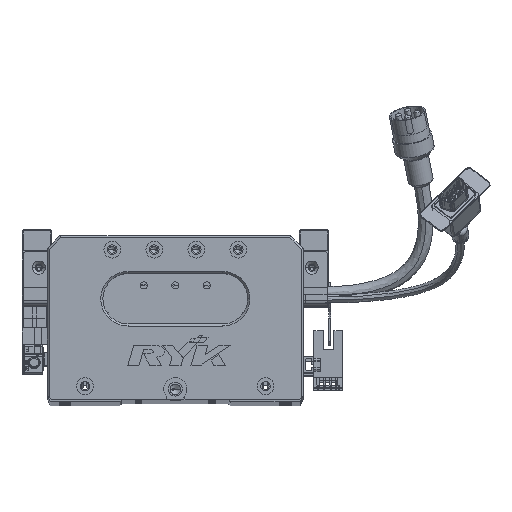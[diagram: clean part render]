
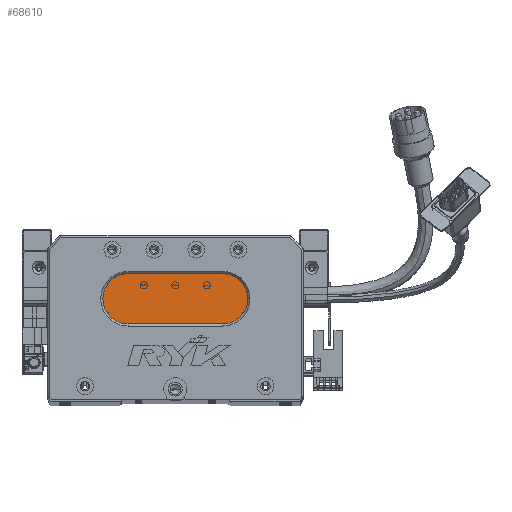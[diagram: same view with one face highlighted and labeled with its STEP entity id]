
A CAD part, top view. The second image highlights one B-rep face of the part: STEP entity #68610.
In plain terms, the highlighted planar face has unit normal (0, 0, 1) as drawn and (0, 0, -1) by its records, which use the part's own axes.
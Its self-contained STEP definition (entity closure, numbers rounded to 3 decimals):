
#794 = CARTESIAN_POINT ( 'NONE',  ( 26.5, 48., 13. ) ) ;
#3044 = VERTEX_POINT ( 'NONE', #9523 ) ;
#5643 = DIRECTION ( 'NONE',  ( -1., 0., 0. ) ) ;
#7388 = ORIENTED_EDGE ( 'NONE', *, *, #18021, .T. ) ;
#9523 = CARTESIAN_POINT ( 'NONE',  ( 38.5, 36., 13. ) ) ;
#10908 = CARTESIAN_POINT ( 'NONE',  ( 38.5, 60., 13. ) ) ;
#11851 = VERTEX_POINT ( 'NONE', #79223 ) ;
#12340 = VECTOR ( 'NONE', #32223, 1000. ) ;
#16562 = VERTEX_POINT ( 'NONE', #10908 ) ;
#18021 = EDGE_CURVE ( 'NONE', #78773, #16562, #33717, .T. ) ;
#19556 = DIRECTION ( 'NONE',  ( 0., 0., -1. ) ) ;
#20141 = PLANE ( 'NONE',  #65885 ) ;
#22933 = LINE ( 'NONE', #45106, #12340 ) ;
#23087 = VECTOR ( 'NONE', #30357, 1000. ) ;
#29159 = EDGE_LOOP ( 'NONE', ( #39239, #80688, #77377, #7388, #52264 ) ) ;
#30357 = DIRECTION ( 'NONE',  ( -1., 0., 0. ) ) ;
#31771 = CARTESIAN_POINT ( 'NONE',  ( 38.5, 48., 13. ) ) ;
#32223 = DIRECTION ( 'NONE',  ( 1., 0., 0. ) ) ;
#32731 = DIRECTION ( 'NONE',  ( -1., 0., 0. ) ) ;
#33717 = CIRCLE ( 'NONE', #62485, 12. ) ;
#38447 = DIRECTION ( 'NONE',  ( 0., 0., -1. ) ) ;
#39239 = ORIENTED_EDGE ( 'NONE', *, *, #60033, .T. ) ;
#40825 = LINE ( 'NONE', #84714, #23087 ) ;
#41692 = CIRCLE ( 'NONE', #78467, 12. ) ;
#42979 = AXIS2_PLACEMENT_3D ( 'NONE', #31771, #38447, #85284 ) ;
#45106 = CARTESIAN_POINT ( 'NONE',  ( 83.5, 60., 13. ) ) ;
#46659 = EDGE_CURVE ( 'NONE', #16562, #48496, #22933, .T. ) ;
#48496 = VERTEX_POINT ( 'NONE', #76034 ) ;
#52264 = ORIENTED_EDGE ( 'NONE', *, *, #46659, .T. ) ;
#59236 = CARTESIAN_POINT ( 'NONE',  ( 38.5, 48., 13. ) ) ;
#59603 = CARTESIAN_POINT ( 'NONE',  ( 83.5, 48., 13. ) ) ;
#60033 = EDGE_CURVE ( 'NONE', #48496, #11851, #41692, .T. ) ;
#62485 = AXIS2_PLACEMENT_3D ( 'NONE', #59236, #72690, #5643 ) ;
#63774 = DIRECTION ( 'NONE',  ( -1., 0., 0. ) ) ;
#65885 = AXIS2_PLACEMENT_3D ( 'NONE', #59603, #19556, #32731 ) ;
#68610 = ADVANCED_FACE ( 'NONE', ( #80629 ), #20141, .T. ) ;
#69129 = EDGE_CURVE ( 'NONE', #11851, #3044, #40825, .T. ) ;
#69223 = EDGE_CURVE ( 'NONE', #3044, #78773, #76360, .T. ) ;
#72690 = DIRECTION ( 'NONE',  ( 0., 0., -1. ) ) ;
#76034 = CARTESIAN_POINT ( 'NONE',  ( 83.5, 60., 13. ) ) ;
#76360 = CIRCLE ( 'NONE', #42979, 12. ) ;
#77377 = ORIENTED_EDGE ( 'NONE', *, *, #69223, .T. ) ;
#78467 = AXIS2_PLACEMENT_3D ( 'NONE', #83118, #83716, #63774 ) ;
#78773 = VERTEX_POINT ( 'NONE', #794 ) ;
#79223 = CARTESIAN_POINT ( 'NONE',  ( 83.5, 36., 13. ) ) ;
#80629 = FACE_OUTER_BOUND ( 'NONE', #29159, .T. ) ;
#80688 = ORIENTED_EDGE ( 'NONE', *, *, #69129, .T. ) ;
#83118 = CARTESIAN_POINT ( 'NONE',  ( 83.5, 48., 13. ) ) ;
#83716 = DIRECTION ( 'NONE',  ( 0., 0., -1. ) ) ;
#84714 = CARTESIAN_POINT ( 'NONE',  ( 83.5, 36., 13. ) ) ;
#85284 = DIRECTION ( 'NONE',  ( -1., 0., 0. ) ) ;
